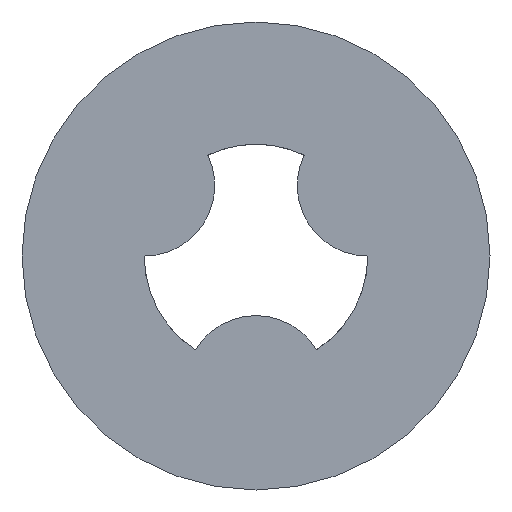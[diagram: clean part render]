
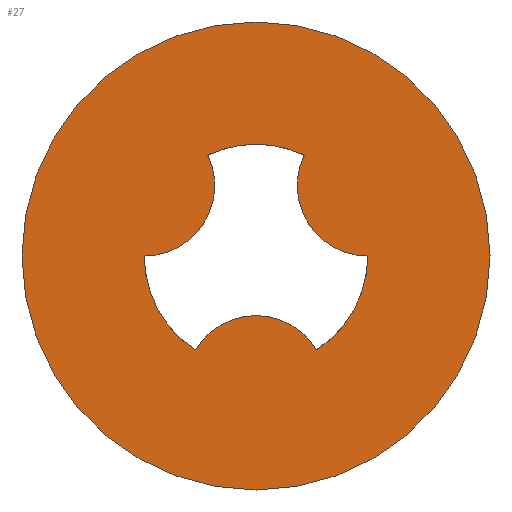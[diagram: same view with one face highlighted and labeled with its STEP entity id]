
A CAD part, front view. The second image highlights one B-rep face of the part: STEP entity #27.
In plain terms, the highlighted planar face has unit normal (0, -1, 0).
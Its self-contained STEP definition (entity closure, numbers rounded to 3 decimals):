
#2 = CARTESIAN_POINT ( 'NONE',  ( -2.15, -0.4, 1.357 ) ) ;
#4 = AXIS2_PLACEMENT_3D ( 'NONE', #144, #85, #114 ) ;
#6 = EDGE_CURVE ( 'NONE', #153, #42, #81, .T. ) ;
#10 = VERTEX_POINT ( 'NONE', #37 ) ;
#12 = CIRCLE ( 'NONE', #200, 4.5 ) ;
#14 = CARTESIAN_POINT ( 'NONE',  ( -2.15, -0.4, 0. ) ) ;
#19 = CIRCLE ( 'NONE', #99, 1.357 ) ;
#20 = CARTESIAN_POINT ( 'NONE',  ( 0., -0.4, 0. ) ) ;
#22 = DIRECTION ( 'NONE',  ( 0., 0., 1. ) ) ;
#27 = ADVANCED_FACE ( 'NONE', ( #141, #238 ), #92, .F. ) ;
#37 = CARTESIAN_POINT ( 'NONE',  ( 0., -0.4, 4.5 ) ) ;
#39 = EDGE_LOOP ( 'NONE', ( #77, #286, #41, #170, #258, #130 ) ) ;
#41 = ORIENTED_EDGE ( 'NONE', *, *, #310, .T. ) ;
#42 = VERTEX_POINT ( 'NONE', #287 ) ;
#43 = CIRCLE ( 'NONE', #175, 2.15 ) ;
#47 = DIRECTION ( 'NONE',  ( 0., 0., 1. ) ) ;
#61 = VERTEX_POINT ( 'NONE', #162 ) ;
#63 = DIRECTION ( 'NONE',  ( 0., 1., 0. ) ) ;
#65 = VERTEX_POINT ( 'NONE', #256 ) ;
#70 = DIRECTION ( 'NONE',  ( 0., 1., 0. ) ) ;
#73 = EDGE_CURVE ( 'NONE', #90, #42, #43, .T. ) ;
#77 = ORIENTED_EDGE ( 'NONE', *, *, #73, .T. ) ;
#81 = CIRCLE ( 'NONE', #4, 1.357 ) ;
#85 = DIRECTION ( 'NONE',  ( 0., 1., 0. ) ) ;
#90 = VERTEX_POINT ( 'NONE', #242 ) ;
#92 = PLANE ( 'NONE',  #185 ) ;
#95 = CIRCLE ( 'NONE', #107, 2.15 ) ;
#99 = AXIS2_PLACEMENT_3D ( 'NONE', #279, #128, #129 ) ;
#107 = AXIS2_PLACEMENT_3D ( 'NONE', #267, #318, #296 ) ;
#112 = DIRECTION ( 'NONE',  ( 0., 0., 1. ) ) ;
#114 = DIRECTION ( 'NONE',  ( 0., 0., 1. ) ) ;
#120 = DIRECTION ( 'NONE',  ( 0., 1., 0. ) ) ;
#128 = DIRECTION ( 'NONE',  ( 0., 1., 0. ) ) ;
#129 = DIRECTION ( 'NONE',  ( 0., 0., 1. ) ) ;
#130 = ORIENTED_EDGE ( 'NONE', *, *, #150, .F. ) ;
#132 = CARTESIAN_POINT ( 'NONE',  ( 0., -0.4, 0. ) ) ;
#139 = DIRECTION ( 'NONE',  ( 0., 1., 0. ) ) ;
#141 = FACE_OUTER_BOUND ( 'NONE', #164, .T. ) ;
#143 = AXIS2_PLACEMENT_3D ( 'NONE', #2, #120, #47 ) ;
#144 = CARTESIAN_POINT ( 'NONE',  ( 2.15, -0.4, 1.357 ) ) ;
#150 = EDGE_CURVE ( 'NONE', #90, #289, #246, .T. ) ;
#152 = CARTESIAN_POINT ( 'NONE',  ( 0., -0.4, 0. ) ) ;
#153 = VERTEX_POINT ( 'NONE', #266 ) ;
#161 = EDGE_CURVE ( 'NONE', #10, #10, #12, .T. ) ;
#162 = CARTESIAN_POINT ( 'NONE',  ( -1.164, -0.4, -1.807 ) ) ;
#164 = EDGE_LOOP ( 'NONE', ( #254 ) ) ;
#170 = ORIENTED_EDGE ( 'NONE', *, *, #297, .F. ) ;
#172 = DIRECTION ( 'NONE',  ( 0., 0., 1. ) ) ;
#175 = AXIS2_PLACEMENT_3D ( 'NONE', #152, #70, #172 ) ;
#185 = AXIS2_PLACEMENT_3D ( 'NONE', #20, #63, #22 ) ;
#200 = AXIS2_PLACEMENT_3D ( 'NONE', #243, #317, #271 ) ;
#215 = AXIS2_PLACEMENT_3D ( 'NONE', #132, #139, #112 ) ;
#222 = CIRCLE ( 'NONE', #215, 2.15 ) ;
#238 = FACE_BOUND ( 'NONE', #39, .T. ) ;
#242 = CARTESIAN_POINT ( 'NONE',  ( -0.926, -0.4, 1.941 ) ) ;
#243 = CARTESIAN_POINT ( 'NONE',  ( 0., -0.4, 0. ) ) ;
#246 = CIRCLE ( 'NONE', #143, 1.357 ) ;
#254 = ORIENTED_EDGE ( 'NONE', *, *, #161, .F. ) ;
#256 = CARTESIAN_POINT ( 'NONE',  ( 1.164, -0.4, -1.807 ) ) ;
#258 = ORIENTED_EDGE ( 'NONE', *, *, #268, .T. ) ;
#266 = CARTESIAN_POINT ( 'NONE',  ( 2.15, -0.4, 0. ) ) ;
#267 = CARTESIAN_POINT ( 'NONE',  ( 0., -0.4, 0. ) ) ;
#268 = EDGE_CURVE ( 'NONE', #61, #289, #95, .T. ) ;
#271 = DIRECTION ( 'NONE',  ( 0., 0., 1. ) ) ;
#279 = CARTESIAN_POINT ( 'NONE',  ( 0., -0.4, -2.503 ) ) ;
#286 = ORIENTED_EDGE ( 'NONE', *, *, #6, .F. ) ;
#287 = CARTESIAN_POINT ( 'NONE',  ( 0.926, -0.4, 1.941 ) ) ;
#289 = VERTEX_POINT ( 'NONE', #14 ) ;
#296 = DIRECTION ( 'NONE',  ( 0., 0., 1. ) ) ;
#297 = EDGE_CURVE ( 'NONE', #61, #65, #19, .T. ) ;
#310 = EDGE_CURVE ( 'NONE', #153, #65, #222, .T. ) ;
#317 = DIRECTION ( 'NONE',  ( 0., 1., 0. ) ) ;
#318 = DIRECTION ( 'NONE',  ( 0., 1., 0. ) ) ;
